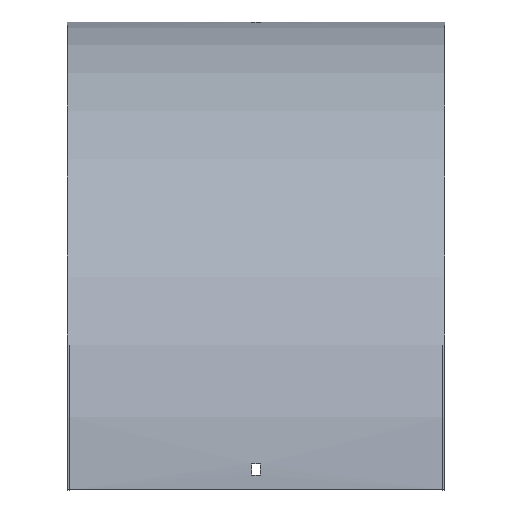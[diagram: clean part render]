
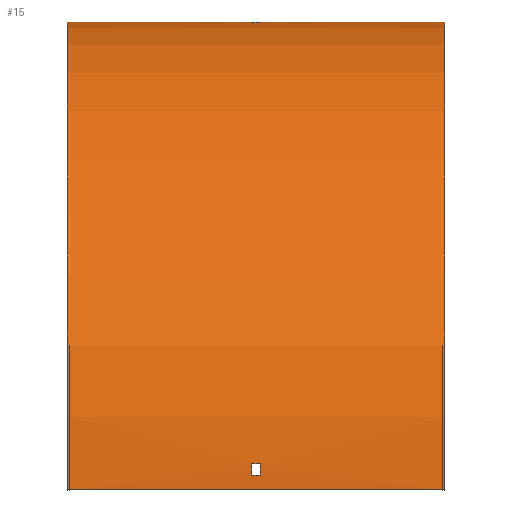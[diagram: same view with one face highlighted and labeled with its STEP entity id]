
A CAD part, top view. The second image highlights one B-rep face of the part: STEP entity #15.
In plain terms, the highlighted cylindrical face has radius 376.5 mm (diameter 753 mm), a partial arc.
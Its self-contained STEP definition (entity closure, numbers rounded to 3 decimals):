
#15 = ADVANCED_FACE ( 'NONE', ( #582, #300, #486 ), #259, .T. ) ;
#21 = CIRCLE ( 'NONE', #365, 376.5 ) ;
#29 = AXIS2_PLACEMENT_3D ( 'NONE', #407, #273, #599 ) ;
#35 = CARTESIAN_POINT ( 'NONE',  ( -3.25, -364.5, 376.309 ) ) ;
#36 = CARTESIAN_POINT ( 'NONE',  ( -151.5, 0., 0. ) ) ;
#37 = CARTESIAN_POINT ( 'NONE',  ( 151.5, -355.5, 375.914 ) ) ;
#38 = DIRECTION ( 'NONE',  ( 1., 0., 0. ) ) ;
#39 = EDGE_CURVE ( 'NONE', #517, #165, #21, .T. ) ;
#40 = LINE ( 'NONE', #37, #54 ) ;
#46 = EDGE_CURVE ( 'NONE', #292, #77, #601, .T. ) ;
#47 = LINE ( 'NONE', #570, #478 ) ;
#54 = VECTOR ( 'NONE', #363, 1000. ) ;
#65 = EDGE_CURVE ( 'NONE', #185, #241, #40, .T. ) ;
#68 = DIRECTION ( 'NONE',  ( 0., 0., -1. ) ) ;
#77 = VERTEX_POINT ( 'NONE', #125 ) ;
#82 = VERTEX_POINT ( 'NONE', #227 ) ;
#98 = ORIENTED_EDGE ( 'NONE', *, *, #526, .F. ) ;
#100 = EDGE_CURVE ( 'NONE', #82, #222, #459, .T. ) ;
#110 = AXIS2_PLACEMENT_3D ( 'NONE', #394, #541, #122 ) ;
#122 = DIRECTION ( 'NONE',  ( 0., 0., 1. ) ) ;
#125 = CARTESIAN_POINT ( 'NONE',  ( -151.5, -376.5, 376.5 ) ) ;
#126 = CARTESIAN_POINT ( 'NONE',  ( 151.5, 0., 0. ) ) ;
#153 = DIRECTION ( 'NONE',  ( -1., 0., 0. ) ) ;
#156 = CARTESIAN_POINT ( 'NONE',  ( 3.25, -376.5, 0. ) ) ;
#160 = VERTEX_POINT ( 'NONE', #35 ) ;
#165 = VERTEX_POINT ( 'NONE', #401 ) ;
#169 = EDGE_LOOP ( 'NONE', ( #98, #341, #176, #554 ) ) ;
#170 = DIRECTION ( 'NONE',  ( -1., 0., 0. ) ) ;
#171 = EDGE_CURVE ( 'NONE', #513, #292, #298, .T. ) ;
#176 = ORIENTED_EDGE ( 'NONE', *, *, #444, .F. ) ;
#179 = DIRECTION ( 'NONE',  ( -1., 0., 0. ) ) ;
#185 = VERTEX_POINT ( 'NONE', #270 ) ;
#190 = CARTESIAN_POINT ( 'NONE',  ( 151.5, -0.191, 12. ) ) ;
#198 = DIRECTION ( 'NONE',  ( 1., 0., 0. ) ) ;
#205 = VERTEX_POINT ( 'NONE', #36 ) ;
#207 = CIRCLE ( 'NONE', #218, 376.5 ) ;
#209 = ORIENTED_EDGE ( 'NONE', *, *, #569, .T. ) ;
#218 = AXIS2_PLACEMENT_3D ( 'NONE', #587, #257, #435 ) ;
#220 = DIRECTION ( 'NONE',  ( -1., 0., 0. ) ) ;
#222 = VERTEX_POINT ( 'NONE', #502 ) ;
#227 = CARTESIAN_POINT ( 'NONE',  ( -3.25, -0.586, 21. ) ) ;
#240 = VERTEX_POINT ( 'NONE', #325 ) ;
#241 = VERTEX_POINT ( 'NONE', #461 ) ;
#245 = VECTOR ( 'NONE', #170, 1000. ) ;
#246 = EDGE_CURVE ( 'NONE', #222, #517, #364, .T. ) ;
#257 = DIRECTION ( 'NONE',  ( 1., 0., 0. ) ) ;
#258 = ORIENTED_EDGE ( 'NONE', *, *, #100, .T. ) ;
#259 = CYLINDRICAL_SURFACE ( 'NONE', #110, 376.5 ) ;
#270 = CARTESIAN_POINT ( 'NONE',  ( 3.25, -355.5, 375.914 ) ) ;
#273 = DIRECTION ( 'NONE',  ( 1., 0., 0. ) ) ;
#292 = VERTEX_POINT ( 'NONE', #553 ) ;
#298 = CIRCLE ( 'NONE', #29, 376.5 ) ;
#300 = FACE_BOUND ( 'NONE', #436, .T. ) ;
#301 = EDGE_CURVE ( 'NONE', #205, #77, #442, .T. ) ;
#309 = LINE ( 'NONE', #443, #348 ) ;
#320 = CARTESIAN_POINT ( 'NONE',  ( -3.25, -376.5, 0. ) ) ;
#325 = CARTESIAN_POINT ( 'NONE',  ( 3.25, -364.5, 376.309 ) ) ;
#329 = ORIENTED_EDGE ( 'NONE', *, *, #246, .T. ) ;
#340 = CARTESIAN_POINT ( 'NONE',  ( 151.5, 0., 0. ) ) ;
#341 = ORIENTED_EDGE ( 'NONE', *, *, #65, .F. ) ;
#344 = CARTESIAN_POINT ( 'NONE',  ( 3.25, -376.5, 0. ) ) ;
#348 = VECTOR ( 'NONE', #546, 1000. ) ;
#350 = ORIENTED_EDGE ( 'NONE', *, *, #590, .T. ) ;
#363 = DIRECTION ( 'NONE',  ( -1., 0., 0. ) ) ;
#364 = LINE ( 'NONE', #190, #515 ) ;
#365 = AXIS2_PLACEMENT_3D ( 'NONE', #344, #536, #68 ) ;
#368 = CIRCLE ( 'NONE', #581, 376.5 ) ;
#369 = DIRECTION ( 'NONE',  ( 1., 0., 0. ) ) ;
#371 = AXIS2_PLACEMENT_3D ( 'NONE', #458, #38, #602 ) ;
#392 = EDGE_CURVE ( 'NONE', #160, #240, #47, .T. ) ;
#394 = CARTESIAN_POINT ( 'NONE',  ( 151.5, -376.5, 0. ) ) ;
#401 = CARTESIAN_POINT ( 'NONE',  ( 3.25, -0.586, 21. ) ) ;
#407 = CARTESIAN_POINT ( 'NONE',  ( 151.5, -376.5, 0. ) ) ;
#422 = ORIENTED_EDGE ( 'NONE', *, *, #301, .T. ) ;
#435 = DIRECTION ( 'NONE',  ( 0., 1., 0. ) ) ;
#436 = EDGE_LOOP ( 'NONE', ( #209, #258, #329, #533 ) ) ;
#441 = EDGE_LOOP ( 'NONE', ( #422, #588, #573, #350 ) ) ;
#442 = CIRCLE ( 'NONE', #371, 376.5 ) ;
#443 = CARTESIAN_POINT ( 'NONE',  ( 151.5, -0.586, 21. ) ) ;
#444 = EDGE_CURVE ( 'NONE', #240, #185, #368, .T. ) ;
#449 = CARTESIAN_POINT ( 'NONE',  ( 151.5, -376.5, 376.5 ) ) ;
#458 = CARTESIAN_POINT ( 'NONE',  ( -151.5, -376.5, 0. ) ) ;
#459 = CIRCLE ( 'NONE', #575, 376.5 ) ;
#461 = CARTESIAN_POINT ( 'NONE',  ( -3.25, -355.5, 375.914 ) ) ;
#478 = VECTOR ( 'NONE', #198, 1000. ) ;
#486 = FACE_BOUND ( 'NONE', #169, .T. ) ;
#502 = CARTESIAN_POINT ( 'NONE',  ( -3.25, -0.191, 12. ) ) ;
#508 = DIRECTION ( 'NONE',  ( 0., 0., 1. ) ) ;
#513 = VERTEX_POINT ( 'NONE', #340 ) ;
#515 = VECTOR ( 'NONE', #369, 1000. ) ;
#517 = VERTEX_POINT ( 'NONE', #534 ) ;
#526 = EDGE_CURVE ( 'NONE', #241, #160, #207, .T. ) ;
#533 = ORIENTED_EDGE ( 'NONE', *, *, #39, .T. ) ;
#534 = CARTESIAN_POINT ( 'NONE',  ( 3.25, -0.191, 12. ) ) ;
#536 = DIRECTION ( 'NONE',  ( 1., 0., 0. ) ) ;
#541 = DIRECTION ( 'NONE',  ( -1., 0., 0. ) ) ;
#546 = DIRECTION ( 'NONE',  ( -1., 0., 0. ) ) ;
#553 = CARTESIAN_POINT ( 'NONE',  ( 151.5, -376.5, 376.5 ) ) ;
#554 = ORIENTED_EDGE ( 'NONE', *, *, #392, .F. ) ;
#562 = VECTOR ( 'NONE', #220, 1000. ) ;
#566 = DIRECTION ( 'NONE',  ( 0., 0., 1. ) ) ;
#569 = EDGE_CURVE ( 'NONE', #165, #82, #309, .T. ) ;
#570 = CARTESIAN_POINT ( 'NONE',  ( 151.5, -364.5, 376.309 ) ) ;
#573 = ORIENTED_EDGE ( 'NONE', *, *, #171, .F. ) ;
#575 = AXIS2_PLACEMENT_3D ( 'NONE', #320, #179, #508 ) ;
#581 = AXIS2_PLACEMENT_3D ( 'NONE', #156, #153, #566 ) ;
#582 = FACE_OUTER_BOUND ( 'NONE', #441, .T. ) ;
#587 = CARTESIAN_POINT ( 'NONE',  ( -3.25, -376.5, 0. ) ) ;
#588 = ORIENTED_EDGE ( 'NONE', *, *, #46, .F. ) ;
#590 = EDGE_CURVE ( 'NONE', #513, #205, #593, .T. ) ;
#593 = LINE ( 'NONE', #126, #562 ) ;
#599 = DIRECTION ( 'NONE',  ( 0., 0., -1. ) ) ;
#601 = LINE ( 'NONE', #449, #245 ) ;
#602 = DIRECTION ( 'NONE',  ( 0., 0., -1. ) ) ;
